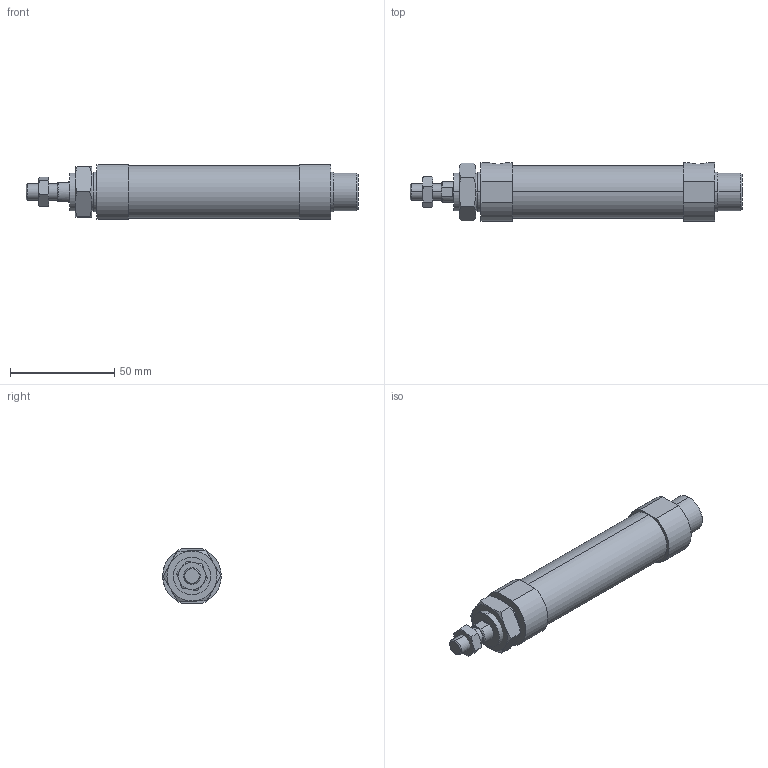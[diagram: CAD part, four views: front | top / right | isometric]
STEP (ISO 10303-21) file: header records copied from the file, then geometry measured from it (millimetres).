
FILE_DESCRIPTION (( 'STEP AP203' ), '1' );
FILE_NAME ('J#2-20-50-N.STEP', '2016-03-08T06:57:58', ( '' ), ( '' ), 'SwSTEP 2.0', 'SolidWorks 2014', '' );
FILE_SCHEMA (( 'CONFIG_CONTROL_DESIGN' ));
Length unit declared in the file: millimetre
Products named in the file (4): J#2-20-50-N; J#2-20-50
Assembly tree (3 placements, depth 2):
  J#2-20-50-N
    J#2-20-50
    (unnamed)
    (unnamed)
Bounding box: 159 x 28 x 26 mm (x, y, z)
Volume: 67480.4 mm3; surface area: 15368.9 mm2
Topology: 3 solids, 3 shells, 92 faces, 198 edges, 122 vertices
Faces by surface type: plane 36, cylinder 26, torus 24, cone 6
Entity records: 3250 total; most frequent: CARTESIAN_POINT 874, DIRECTION 420, ORIENTED_EDGE 396, EDGE_CURVE 198, AXIS2_PLACEMENT_3D 180, VERTEX_POINT 122, EDGE_LOOP 106, FACE_OUTER_BOUND 92
